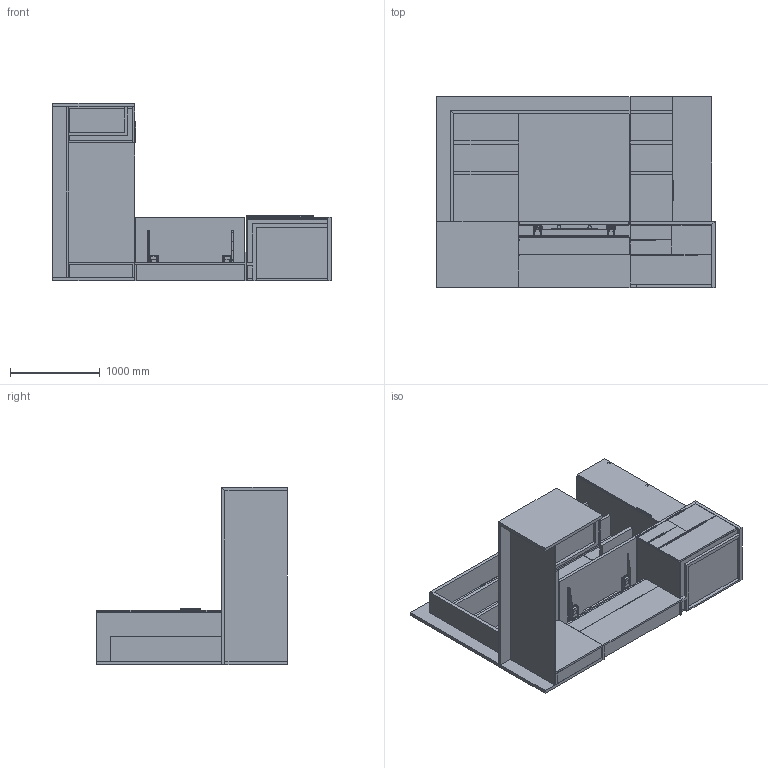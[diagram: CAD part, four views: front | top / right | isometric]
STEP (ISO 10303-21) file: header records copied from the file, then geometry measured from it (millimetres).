
FILE_DESCRIPTION(/* description */ ('','CAx-IF Rec.Pracs.---Representation and Presentation of Product Manufacturing Information (PMI)---4.0---2014-10-13'),/* implementation_level */ '2;1');
FILE_NAME(/* name */ 'PRIVATE OFFICE_FOUNDATION 2.stp',/* time_stamp */ '2024-12-08T10:41:33-05:00',/* author */ ('mbowman'),/* organization */ (''),/* preprocessor_version */ 'ST-DEVELOPER v19.2',/* originating_system */ 'Autodesk Inventor 2023',/* authorisation */ '');
FILE_SCHEMA (('AP242_MANAGED_MODEL_BASED_3D_ENGINEERING_MIM_LF { 1 0 10303 442 1 1 4 }'));
Products named in the file (44): FOUNDATION^PO2_OFFICE-SOLID ASSEMBLY; FOUNDATION^PO 2_LAT BBFF RIGHT-SOLID ASSEMBLY; FOUNDATION^PO 2_LAT BBFF RIGHT-PARTS SOLID; JW PULL-11_125^STANDARD; JW PULL-29_453125^STANDARD; FOUNDATION^PO 2_WARDROBE RIGHT-ASSEMBLY; FOUNDATION^PO 2_WARDROBE RIGHT-LEFT END; FOUNDATION^PO 2_WARDROBE RIGHT-TOP; FOUNDATION^PO 2_WARDROBE RIGHT-RIGHT END; FOUNDATION^PO 2_WARDROBE RIGHT-BACK; FOUNDATION^PO 2_WARDROBE RIGHT-BOTTOM; FOUNDATION^PO 2_WARDROBE RIGHT-DOOR; FullOverlay Hinge; FullOverlay Hinge_1; FullOverlay Hinge_2; Can; Pin; Arm; ArmPin; Guide01; Guide02; Keeper; COAT ROD 15-5 - (H-254 ); COAT ROD CAP-(MM-115Z); FOUNDATION^PO 2_WARDROBE RIGHT-MIRROR; MIRROR CLIP; FOUNDATION^PO 2_WALL HUN 3 SHELVES-PARTS SOLID; FOUNDATION^PO 2_WALL HUNG WORK WALL-PARTS SOLID; FOUNDATION^PO2_GLASS TACK-PARTS SOLID; FOUNDATION^PO 2_WALL HUNG WORK WALL SHELVES-PARTS SOLID; FOUNDATION^PO2_DESK SHELL-PARTS SOLID; FOUNDATION^PO 2_LTR BBF DESK LT-SOLID ASSEMBLY; FOUNDATION^PO 2_LTR BBF DESK LT-PARTS SOLID; JW PULL-9^STANDARD; FOUNDATION^PO2_WIRE WALL-WORKSURFACE; dl5nc_without_bracket_STEP; dl5nc_without_bracket_STEP_1; DL5NC_OP; STANDART_MOTORHUS1_DL5; FOUNDATION^PO2_WIRE WALL-PARTS SOLID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
Assembly tree (71 placements, depth 4):
  FOUNDATION^PO2_OFFICE-SOLID ASSEMBLY
    FOUNDATION^PO 2_LAT BBFF RIGHT-SOLID ASSEMBLY
      FOUNDATION^PO 2_LAT BBFF RIGHT-PARTS SOLID
      JW PULL-11_125^STANDARD  x3
      JW PULL-29_453125^STANDARD
    FOUNDATION^PO 2_WARDROBE RIGHT-ASSEMBLY
      FOUNDATION^PO 2_WARDROBE RIGHT-LEFT END
      FOUNDATION^PO 2_WARDROBE RIGHT-TOP
      FOUNDATION^PO 2_WARDROBE RIGHT-RIGHT END
      FOUNDATION^PO 2_WARDROBE RIGHT-BACK
      FOUNDATION^PO 2_WARDROBE RIGHT-BOTTOM
      FOUNDATION^PO 2_WARDROBE RIGHT-DOOR
      FullOverlay Hinge
        Can
        Pin
        Arm
        ArmPin  x2
        Guide01
        Guide02
        Keeper
      FullOverlay Hinge_1
        Can
        Pin
        Arm
        ArmPin  x2
        Guide01
        Guide02
        Keeper
      FullOverlay Hinge_2
        Can
        Pin
        Arm
        ArmPin  x2
        Guide01
        Guide02
        Keeper
      COAT ROD 15-5 - (H-254 )
      COAT ROD CAP-(MM-115Z)  x2
      JW PULL-9^STANDARD
      FOUNDATION^PO 2_WARDROBE RIGHT-MIRROR
      MIRROR CLIP  x4
    FOUNDATION^PO 2_WALL HUN 3 SHELVES-PARTS SOLID
    FOUNDATION^PO 2_WALL HUNG WORK WALL-PARTS SOLID
    FOUNDATION^PO2_GLASS TACK-PARTS SOLID
    FOUNDATION^PO 2_WALL HUNG WORK WALL SHELVES-PARTS SOLID
    FOUNDATION^PO2_DESK SHELL-PARTS SOLID
    FOUNDATION^PO 2_LTR BBF DESK LT-SOLID ASSEMBLY
      FOUNDATION^PO 2_LTR BBF DESK LT-PARTS SOLID
      JW PULL-9^STANDARD  x3
    FOUNDATION^PO2_WIRE WALL-WORKSURFACE
    dl5nc_without_bracket_STEP
      DL5NC_OP
      STANDART_MOTORHUS1_DL5
    dl5nc_without_bracket_STEP_1
      DL5NC_OP
      STANDART_MOTORHUS1_DL5
    FOUNDATION^PO2_WIRE WALL-PARTS SOLID
    SS LIFT ANGLE_18_LT_OMT_LINAK (NEW)
    SS LIFT ANGLE_18_RT_OMT_LINAK (NEW)
    FOUNDATION^PO 2_LIFT TOP-WIRE TROUGH
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Bounding box: 3111.5 x 2133.6 x 1981.2 mm (x, y, z)
Volume: 578437866.4 mm3; surface area: 53157805.1 mm2
Topology: 109 solids, 149 shells, 4880 faces, 12123 edges, 7521 vertices
Faces by surface type: plane 2686, cylinder 1562, torus 260, bspline 178, cone 146, sphere 48
Full cylindrical faces by diameter (mm): 1.587 x6, 2 x57, 4.2 x6, 4.4 x4, 4.6 x4, 4.826 x10, 5 x23, 5.3 x12, 5.5 x4, 5.6 x3, 6.35 x4, 8 x8, 8.202 x40, 35 x3, 38.1 x2, 48.26 x1
Entity records: 81232 total; most frequent: CARTESIAN_POINT 19076, DIRECTION 12654, ORIENTED_EDGE 11476, EDGE_CURVE 5738, AXIS2_PLACEMENT_3D 4434, LINE 3786, VECTOR 3786, VERTEX_POINT 3611
